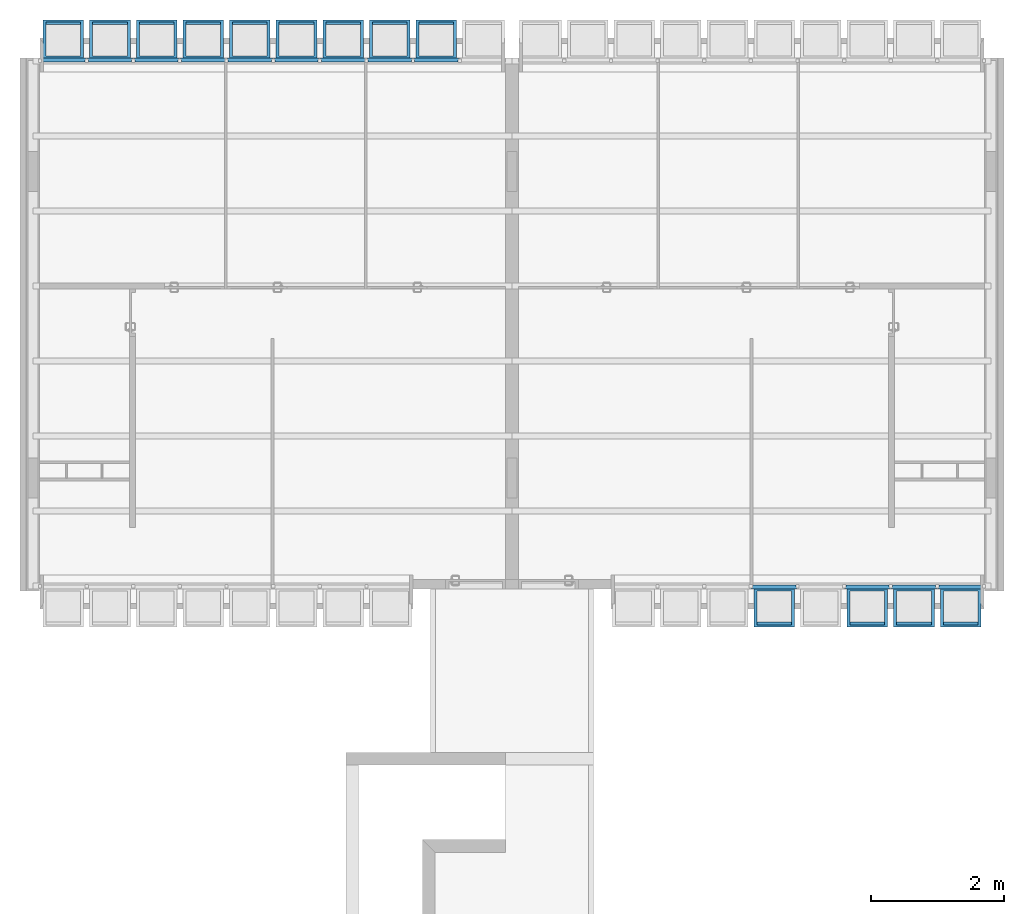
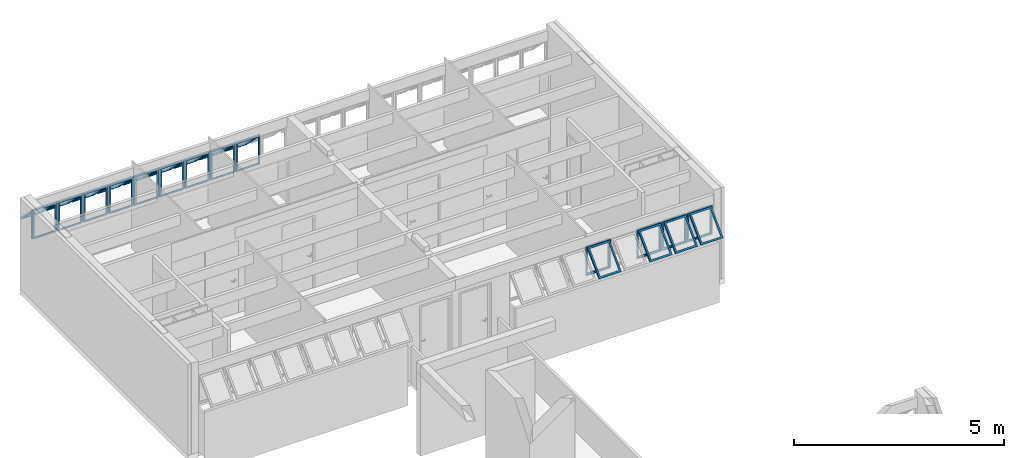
# One storey, part 33 of 37: 13 building element parts, 15 elements without a shape of their own.
"""IFC2X3 building model written with IfcOpenShell, lengths in millimetres."""

from ifc_helpers import new_model, entity, si_unit, converted_unit, derived_unit, money_unit, direction, frame, origin_with_axes, place, context, subcontext, project, spatial, faceted_brep, source, transform, mapped, material, type_object, element, aggregate, save


model = new_model("IFC2X3")

# Units and contexts
model_context = context("Model", 3, precision=0.01, world=origin_with_axes(), true_north=direction((0.0, 1.0)))
body_context = subcontext(model_context, "Body", "Model", "MODEL_VIEW")
ifc_project = project(units=[si_unit("LENGTHUNIT", "METRE", prefix="MILLI"), si_unit("AREAUNIT", "SQUARE_METRE"), si_unit("VOLUMEUNIT", "CUBIC_METRE"), converted_unit("PLANEANGLEUNIT", "DEGREE", entity("IfcPlaneAngleMeasure", 0.0174532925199), si_unit("PLANEANGLEUNIT", "RADIAN"), dimensions=[0, 0, 0, 0, 0, 0, 0]), money_unit("USD"), converted_unit("TIMEUNIT", "Year", entity("IfcTimeMeasure", 31556926.0), si_unit("TIMEUNIT", "SECOND"), dimensions=[0, 0, 1, 0, 0, 0, 0]), si_unit("MASSUNIT", "GRAM", prefix="KILO"), si_unit("THERMODYNAMICTEMPERATUREUNIT", "DEGREE_CELSIUS"), si_unit("LUMINOUSINTENSITYUNIT", "LUMEN"), si_unit("ENERGYUNIT", "JOULE", prefix="MEGA"), derived_unit("THERMALCONDUCTANCEUNIT", [(si_unit("POWERUNIT", "WATT"), 1), (si_unit("LENGTHUNIT", "METRE"), -1), (si_unit("THERMODYNAMICTEMPERATUREUNIT", "KELVIN"), -1)]), derived_unit("SPECIFICHEATCAPACITYUNIT", [(si_unit("ENERGYUNIT", "JOULE"), 1), (si_unit("MASSUNIT", "GRAM", prefix="KILO"), -1), (si_unit("THERMODYNAMICTEMPERATUREUNIT", "KELVIN"), -1)]), derived_unit("MASSDENSITYUNIT", [(si_unit("MASSUNIT", "GRAM", prefix="KILO"), 1), (si_unit("VOLUMEUNIT", "CUBIC_METRE"), -1)])], contexts=[model_context])

# Site, building, storey
site_placement = place(None, origin_with_axes())
site = spatial("IfcSite", under=ifc_project, at=site_placement, Name="Local", CompositionType="ELEMENT")
building_placement = place(site_placement, origin_with_axes())
building = spatial("IfcBuilding", under=site, at=building_placement, Name="Construção", CompositionType="ELEMENT")
storey_placement = place(building_placement, frame((0.0, 0.0, 5300.0), z_axis=(0.0, 0.0, 1.0), x_axis=(1.0, 0.0, 0.0)))
storey = spatial("IfcBuildingStorey", under=building, at=storey_placement, Name="Terceiro Pavimento", CompositionType="ELEMENT", Elevation=5300.0)

# Window, plates, building element parts
window_style = type_object("IfcWindowStyle", Name="Tipo de Parede Cortina", ConstructionType="NOTDEFINED", OperationType="NOTDEFINED", ParameterTakesPrecedence=False, Sizeable=False)
window_1_placement = place(storey_placement, frame((6250.0, 25844.9790225, 1355.02054151), z_axis=(0.0, 0.0, 1.0), x_axis=(1.0, 0.0, 0.0)))
window_1 = element("IfcWindow", 1, at=window_1_placement, inside=storey, type_object=window_style, Name="APTO11-JANELA-001")
plate_type = type_object("IfcPlateType", Name="Painel Principal 690 x 845 x 20", PredefinedType="CURTAIN_PANEL")
plate_1_placement = place(window_1_placement, frame((0.0, 0.0, 422.499945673), z_axis=(0.0, 0.0, 1.0), x_axis=(-1.0, 0.0, 0.0)))
plate_1 = element("IfcPlate", 2, at=plate_1_placement, type_object=plate_type, Name="APTO11-Painel-Prin-030")
ifc_material = material(Name="Alumínio")
shared_shape_1 = source(origin_with_axes(), body_context, "Body", "Brep", [
    faceted_brep([(-25.0000036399, 0.0, -40.0), (-25.0000036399, 0.0, -35.0), (-674.999997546, 0.0, -35.0), (-674.999997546, 0.0, -40.0), (-70.0000036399, 45.0, -40.0), (-70.0000036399, 45.0, -35.0), (-629.999997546, 45.0, -35.0), (-629.999997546, 45.0, -40.0)], [[[0, 1, 2, 3]], [[4, 5, 1, 0]], [[1, 5, 6, 2]], [[3, 2, 6, 7]], [[0, 3, 7, 4]], [[7, 6, 5, 4]]]),
    faceted_brep([(-674.999997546, 0.0, -40.0), (-674.999997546, 0.0, -35.0), (-674.999997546, 844.999891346, -35.0), (-674.999997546, 844.999891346, -40.0), (-629.999997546, 45.0, -40.0), (-629.999997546, 45.0, -35.0), (-629.999997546, 799.999891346, -35.0), (-629.999997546, 799.999891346, -40.0)], [[[0, 1, 2, 3]], [[4, 5, 1, 0]], [[1, 5, 6, 2]], [[3, 2, 6, 7]], [[0, 3, 7, 4]], [[7, 6, 5, 4]]]),
    faceted_brep([(-25.0000036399, 844.999891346, -40.0), (-25.0000036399, 844.999891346, -35.0), (-70.0000036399, 799.999891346, -35.0), (-70.0000036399, 799.999891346, -40.0), (-674.999997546, 844.999891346, -40.0), (-674.999997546, 844.999891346, -35.0), (-629.999997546, 799.999891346, -35.0), (-629.999997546, 799.999891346, -40.0)], [[[0, 1, 2, 3]], [[4, 5, 1, 0]], [[1, 5, 6, 2]], [[3, 2, 6, 7]], [[0, 3, 7, 4]], [[7, 6, 5, 4]]]),
    faceted_brep([(-25.0000036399, 0.0, -40.0), (-25.0000036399, 0.0, -35.0), (-70.0000036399, 45.0, -35.0), (-70.0000036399, 45.0, -40.0), (-25.0000036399, 844.999891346, -40.0), (-25.0000036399, 844.999891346, -35.0), (-70.0000036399, 799.999891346, -35.0), (-70.0000036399, 799.999891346, -40.0)], [[[0, 1, 2, 3]], [[4, 5, 1, 0]], [[1, 5, 6, 2]], [[3, 2, 6, 7]], [[0, 3, 7, 4]], [[7, 6, 5, 4]]]),
    faceted_brep([(-25.0000036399, 0.0, -35.0), (-25.0000036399, 0.0, 15.0), (-674.999997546, 0.0, 15.0), (-674.999997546, 0.0, -35.0), (-45.0000036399, 20.0, -35.0), (-45.0000036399, 20.0, 15.0), (-654.999997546, 20.0, 15.0), (-654.999997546, 20.0, -35.0)], [[[0, 1, 2, 3]], [[4, 5, 1, 0]], [[1, 5, 6, 2]], [[3, 2, 6, 7]], [[0, 3, 7, 4]], [[7, 6, 5, 4]]]),
    faceted_brep([(-674.999997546, 0.0, -35.0), (-674.999997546, 0.0, 15.0), (-674.999997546, 844.999891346, 15.0), (-674.999997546, 844.999891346, -35.0), (-654.999997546, 20.0, -35.0), (-654.999997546, 20.0, 15.0), (-654.999997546, 824.999891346, 15.0), (-654.999997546, 824.999891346, -35.0)], [[[0, 1, 2, 3]], [[4, 5, 1, 0]], [[1, 5, 6, 2]], [[3, 2, 6, 7]], [[0, 3, 7, 4]], [[7, 6, 5, 4]]]),
    faceted_brep([(-25.0000036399, 844.999891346, -35.0), (-25.0000036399, 844.999891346, 15.0), (-45.0000036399, 824.999891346, 15.0), (-45.0000036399, 824.999891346, -35.0), (-674.999997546, 844.999891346, -35.0), (-674.999997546, 844.999891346, 15.0), (-654.999997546, 824.999891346, 15.0), (-654.999997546, 824.999891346, -35.0)], [[[0, 1, 2, 3]], [[4, 5, 1, 0]], [[1, 5, 6, 2]], [[3, 2, 6, 7]], [[0, 3, 7, 4]], [[7, 6, 5, 4]]]),
    faceted_brep([(-25.0000036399, 0.0, -35.0), (-25.0000036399, 0.0, 15.0), (-45.0000036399, 20.0, 15.0), (-45.0000036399, 20.0, -35.0), (-25.0000036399, 844.999891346, -35.0), (-25.0000036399, 844.999891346, 15.0), (-45.0000036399, 824.999891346, 15.0), (-45.0000036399, 824.999891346, -35.0)], [[[0, 1, 2, 3]], [[4, 5, 1, 0]], [[1, 5, 6, 2]], [[3, 2, 6, 7]], [[0, 3, 7, 4]], [[7, 6, 5, 4]]]),
    faceted_brep([(-694.999995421, 0.0, -10.0), (-694.999995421, 0.0, 10.0), (-694.999995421, 844.999891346, 10.0), (-694.999995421, 844.999891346, -10.0), (-674.999997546, 0.0, -10.0), (-674.999997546, 0.0, 10.0), (-674.999997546, 844.999891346, 10.0), (-674.999997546, 844.999891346, -10.0)], [[[0, 1, 2, 3]], [[4, 5, 1, 0]], [[1, 5, 6, 2]], [[3, 2, 6, 7]], [[0, 3, 7, 4]], [[7, 6, 5, 4]]]),
    faceted_brep([(-5.00000576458, 844.999891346, -10.0), (-5.00000576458, 844.999891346, 10.0), (-5.00000576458, 0.0, 10.0), (-5.00000576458, 0.0, -10.0), (-25.0000036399, 844.999891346, -10.0), (-25.0000036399, 844.999891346, 10.0), (-25.0000036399, 0.0, 10.0), (-25.0000036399, 0.0, -10.0)], [[[0, 1, 2, 3]], [[4, 5, 1, 0]], [[1, 5, 6, 2]], [[3, 2, 6, 7]], [[0, 3, 7, 4]], [[7, 6, 5, 4]]]),
    faceted_brep([(-90.0000036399, 252.243475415, 517.045737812), (-90.0000036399, 291.13434838, 555.936610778), (-90.0000036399, 796.715620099, 50.3553390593), (-90.0000036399, 757.824747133, 11.4644660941), (-45.0000036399, 220.423670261, 548.865542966), (-45.0000036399, 259.314543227, 587.756415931), (-45.0000036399, 828.535425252, 18.5355339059), (-45.0000036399, 789.644552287, -20.3553390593)], [[[0, 1, 2, 3]], [[4, 5, 1, 0]], [[1, 5, 6, 2]], [[3, 2, 6, 7]], [[0, 3, 7, 4]], [[7, 6, 5, 4]]]),
    faceted_brep([(-654.999997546, 220.423670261, 548.865542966), (-654.999997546, 259.314543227, 587.756415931), (-654.999997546, 828.535425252, 18.5355339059), (-654.999997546, 789.644552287, -20.3553390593), (-609.999997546, 252.243475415, 517.045737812), (-609.999997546, 291.13434838, 555.936610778), (-609.999997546, 796.715620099, 50.3553390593), (-609.999997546, 757.824747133, 11.4644660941)], [[[0, 1, 2, 3]], [[4, 5, 1, 0]], [[1, 5, 6, 2]], [[3, 2, 6, 7]], [[0, 3, 7, 4]], [[7, 6, 5, 4]]]),
    faceted_brep([(-654.999997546, 220.423670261, 548.865542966), (-654.999997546, 259.314543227, 587.756415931), (-609.999997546, 291.13434838, 555.936610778), (-609.999997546, 252.243475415, 517.045737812), (-45.0000036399, 220.423670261, 548.865542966), (-45.0000036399, 259.314543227, 587.756415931), (-90.0000036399, 291.13434838, 555.936610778), (-90.0000036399, 252.243475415, 517.045737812)], [[[0, 1, 2, 3]], [[4, 5, 1, 0]], [[1, 5, 6, 2]], [[3, 2, 6, 7]], [[0, 3, 7, 4]], [[7, 6, 5, 4]]]),
    faceted_brep([(-45.0000036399, 789.644552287, -20.3553390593), (-45.0000036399, 828.535425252, 18.5355339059), (-90.0000036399, 796.715620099, 50.3553390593), (-90.0000036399, 757.824747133, 11.4644660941), (-654.999997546, 789.644552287, -20.3553390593), (-654.999997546, 828.535425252, 18.5355339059), (-609.999997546, 796.715620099, 50.3553390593), (-609.999997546, 757.824747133, 11.4644660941)], [[[0, 1, 2, 3]], [[4, 5, 1, 0]], [[1, 5, 6, 2]], [[3, 2, 6, 7]], [[0, 3, 7, 4]], [[7, 6, 5, 4]]]),
])
building_element_part_1_placement = place(plate_1_placement, origin_with_axes())
building_element_part_1 = element("IfcBuildingElementPart", 3, at=building_element_part_1_placement, material=ifc_material, Name="Alumínio", context=body_context, shape_type="MappedRepresentation", body=[
    mapped(shared_shape_1, transform((350.0, 0.0, -422.499945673), x_axis=(1.0, 0.0, 0.0), y_axis=(0.0, 0.0, 1.0), z_axis=(0.0, -1.0, 0.0))),
])
aggregate(plate_1, [building_element_part_1])
plate_2_placement = place(window_1_placement, frame((-700.0, 0.0, 422.499945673), z_axis=(0.0, 0.0, 1.0), x_axis=(-1.0, 0.0, 0.0)))
plate_2 = element("IfcPlate", 4, at=plate_2_placement, type_object=plate_type, Name="APTO11-Painel-Prin-020")
building_element_part_2_placement = place(plate_2_placement, origin_with_axes())
building_element_part_2 = element("IfcBuildingElementPart", 5, at=building_element_part_2_placement, material=ifc_material, Name="Alumínio", context=body_context, shape_type="MappedRepresentation", body=[
    mapped(shared_shape_1, transform((350.0, 0.0, -422.499945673), x_axis=(1.0, 0.0, 0.0), y_axis=(0.0, 0.0, 1.0), z_axis=(0.0, -1.0, 0.0))),
])
aggregate(plate_2, [building_element_part_2])
plate_3_placement = place(window_1_placement, frame((-1400.0, 0.0, 422.499945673), z_axis=(0.0, 0.0, 1.0), x_axis=(-1.0, 0.0, 0.0)))
plate_3 = element("IfcPlate", 6, at=plate_3_placement, type_object=plate_type, Name="APTO11-Painel-Prin-029")
building_element_part_3_placement = place(plate_3_placement, origin_with_axes())
building_element_part_3 = element("IfcBuildingElementPart", 7, at=building_element_part_3_placement, material=ifc_material, Name="Alumínio", context=body_context, shape_type="MappedRepresentation", body=[
    mapped(shared_shape_1, transform((350.0, 0.0, -422.499945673), x_axis=(1.0, 0.0, 0.0), y_axis=(0.0, 0.0, 1.0), z_axis=(0.0, -1.0, 0.0))),
])
aggregate(plate_3, [building_element_part_3])
plate_4_placement = place(window_1_placement, frame((-3500.0, 0.0, 422.499945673), z_axis=(0.0, 0.0, 1.0), x_axis=(-1.0, 0.0, 0.0)))
plate_4 = element("IfcPlate", 8, at=plate_4_placement, type_object=plate_type, Name="APTO11-Painel-Prin-013")
building_element_part_4_placement = place(plate_4_placement, origin_with_axes())
building_element_part_4 = element("IfcBuildingElementPart", 9, at=building_element_part_4_placement, material=ifc_material, Name="Alumínio", context=body_context, shape_type="MappedRepresentation", body=[
    mapped(shared_shape_1, transform((350.0, 0.0, -422.499945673), x_axis=(1.0, 0.0, 0.0), y_axis=(0.0, 0.0, 1.0), z_axis=(0.0, -1.0, 0.0))),
])
aggregate(plate_4, [building_element_part_4])
plate_5_placement = place(window_1_placement, frame((-5600.0, 0.0, 422.499945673), z_axis=(0.0, 0.0, 1.0), x_axis=(-1.0, 0.0, 0.0)))
plate_5 = element("IfcPlate", 10, at=plate_5_placement, type_object=plate_type, Name="APTO11-Painel-Prin-013")
shared_shape_2 = source(origin_with_axes(), body_context, "Body", "Brep", [
    faceted_brep([(-25.0000036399, 0.0, -40.0), (-25.0000036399, 0.0, -35.0), (-674.999997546, 0.0, -35.0), (-674.999997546, 0.0, -40.0), (-70.0000036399, 45.0, -40.0), (-70.0000036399, 45.0, -35.0), (-629.999997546, 45.0, -35.0), (-629.999997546, 45.0, -40.0)], [[[0, 1, 2, 3]], [[4, 5, 1, 0]], [[1, 5, 6, 2]], [[3, 2, 6, 7]], [[0, 3, 7, 4]], [[7, 6, 5, 4]]]),
    faceted_brep([(-674.999997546, 0.0, -40.0), (-674.999997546, 0.0, -35.0), (-674.999997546, 844.999891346, -35.0), (-674.999997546, 844.999891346, -40.0), (-629.999997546, 45.0, -40.0), (-629.999997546, 45.0, -35.0), (-629.999997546, 799.999891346, -35.0), (-629.999997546, 799.999891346, -40.0)], [[[0, 1, 2, 3]], [[4, 5, 1, 0]], [[1, 5, 6, 2]], [[3, 2, 6, 7]], [[0, 3, 7, 4]], [[7, 6, 5, 4]]]),
    faceted_brep([(-25.0000036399, 844.999891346, -40.0), (-25.0000036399, 844.999891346, -35.0), (-70.0000036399, 799.999891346, -35.0), (-70.0000036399, 799.999891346, -40.0), (-674.999997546, 844.999891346, -40.0), (-674.999997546, 844.999891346, -35.0), (-629.999997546, 799.999891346, -35.0), (-629.999997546, 799.999891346, -40.0)], [[[0, 1, 2, 3]], [[4, 5, 1, 0]], [[1, 5, 6, 2]], [[3, 2, 6, 7]], [[0, 3, 7, 4]], [[7, 6, 5, 4]]]),
    faceted_brep([(-25.0000036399, 0.0, -40.0), (-25.0000036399, 0.0, -35.0), (-70.0000036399, 45.0, -35.0), (-70.0000036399, 45.0, -40.0), (-25.0000036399, 844.999891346, -40.0), (-25.0000036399, 844.999891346, -35.0), (-70.0000036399, 799.999891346, -35.0), (-70.0000036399, 799.999891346, -40.0)], [[[0, 1, 2, 3]], [[4, 5, 1, 0]], [[1, 5, 6, 2]], [[3, 2, 6, 7]], [[0, 3, 7, 4]], [[7, 6, 5, 4]]]),
    faceted_brep([(-25.0000036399, 0.0, -35.0), (-25.0000036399, 0.0, 15.0), (-674.999997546, 0.0, 15.0), (-674.999997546, 0.0, -35.0), (-45.0000036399, 20.0, -35.0), (-45.0000036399, 20.0, 15.0), (-654.999997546, 20.0, 15.0), (-654.999997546, 20.0, -35.0)], [[[0, 1, 2, 3]], [[4, 5, 1, 0]], [[1, 5, 6, 2]], [[3, 2, 6, 7]], [[0, 3, 7, 4]], [[7, 6, 5, 4]]]),
    faceted_brep([(-674.999997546, 0.0, -35.0), (-674.999997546, 0.0, 15.0), (-674.999997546, 844.999891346, 15.0), (-674.999997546, 844.999891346, -35.0), (-654.999997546, 20.0, -35.0), (-654.999997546, 20.0, 15.0), (-654.999997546, 824.999891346, 15.0), (-654.999997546, 824.999891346, -35.0)], [[[0, 1, 2, 3]], [[4, 5, 1, 0]], [[1, 5, 6, 2]], [[3, 2, 6, 7]], [[0, 3, 7, 4]], [[7, 6, 5, 4]]]),
    faceted_brep([(-25.0000036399, 844.999891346, -35.0), (-25.0000036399, 844.999891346, 15.0), (-45.0000036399, 824.999891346, 15.0), (-45.0000036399, 824.999891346, -35.0), (-674.999997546, 844.999891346, -35.0), (-674.999997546, 844.999891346, 15.0), (-654.999997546, 824.999891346, 15.0), (-654.999997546, 824.999891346, -35.0)], [[[0, 1, 2, 3]], [[4, 5, 1, 0]], [[1, 5, 6, 2]], [[3, 2, 6, 7]], [[0, 3, 7, 4]], [[7, 6, 5, 4]]]),
    faceted_brep([(-25.0000036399, 0.0, -35.0), (-25.0000036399, 0.0, 15.0), (-45.0000036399, 20.0, 15.0), (-45.0000036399, 20.0, -35.0), (-25.0000036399, 844.999891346, -35.0), (-25.0000036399, 844.999891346, 15.0), (-45.0000036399, 824.999891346, 15.0), (-45.0000036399, 824.999891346, -35.0)], [[[0, 1, 2, 3]], [[4, 5, 1, 0]], [[1, 5, 6, 2]], [[3, 2, 6, 7]], [[0, 3, 7, 4]], [[7, 6, 5, 4]]]),
    faceted_brep([(-694.999995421, 0.0, -10.0), (-694.999995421, 0.0, 10.0), (-694.999995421, 844.999891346, 10.0), (-694.999995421, 844.999891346, -10.0), (-674.999997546, 0.0, -10.0), (-674.999997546, 0.0, 10.0), (-674.999997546, 844.999891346, 10.0), (-674.999997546, 844.999891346, -10.0)], [[[0, 1, 2, 3]], [[4, 5, 1, 0]], [[1, 5, 6, 2]], [[3, 2, 6, 7]], [[0, 3, 7, 4]], [[7, 6, 5, 4]]]),
    faceted_brep([(-5.00000576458, 844.999891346, -10.0), (-5.00000576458, 844.999891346, 10.0), (-5.00000576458, 0.0, 10.0), (-5.00000576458, 0.0, -10.0), (-25.0000036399, 844.999891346, -10.0), (-25.0000036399, 844.999891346, 10.0), (-25.0000036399, 0.0, 10.0), (-25.0000036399, 0.0, -10.0)], [[[0, 1, 2, 3]], [[4, 5, 1, 0]], [[1, 5, 6, 2]], [[3, 2, 6, 7]], [[0, 3, 7, 4]], [[7, 6, 5, 4]]]),
    faceted_brep([(-90.0000036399, 252.243475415, 517.045737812), (-90.0000036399, 291.13434838, 555.936610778), (-90.0000036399, 796.715620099, 50.3553390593), (-90.0000036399, 757.824747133, 11.4644660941), (-45.0000036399, 220.423670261, 548.865542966), (-45.0000036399, 259.314543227, 587.756415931), (-45.0000036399, 828.535425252, 18.5355339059), (-45.0000036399, 789.644552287, -20.3553390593)], [[[0, 1, 2, 3]], [[4, 5, 1, 0]], [[1, 5, 6, 2]], [[3, 2, 6, 7]], [[0, 3, 7, 4]], [[7, 6, 5, 4]]]),
    faceted_brep([(-654.999997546, 220.423670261, 548.865542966), (-654.999997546, 259.314543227, 587.756415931), (-654.999997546, 828.535425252, 18.5355339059), (-654.999997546, 789.644552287, -20.3553390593), (-609.999997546, 252.243475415, 517.045737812), (-609.999997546, 291.13434838, 555.936610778), (-609.999997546, 796.715620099, 50.3553390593), (-609.999997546, 757.824747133, 11.4644660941)], [[[0, 1, 2, 3]], [[4, 5, 1, 0]], [[1, 5, 6, 2]], [[3, 2, 6, 7]], [[0, 3, 7, 4]], [[7, 6, 5, 4]]]),
    faceted_brep([(-654.999997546, 220.423670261, 548.865542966), (-654.999997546, 259.314543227, 587.756415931), (-609.999997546, 291.13434838, 555.936610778), (-609.999997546, 252.243475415, 517.045737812), (-45.0000036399, 220.423670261, 548.865542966), (-45.0000036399, 259.314543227, 587.756415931), (-90.0000036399, 291.13434838, 555.936610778), (-90.0000036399, 252.243475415, 517.045737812)], [[[0, 1, 2, 3]], [[4, 5, 1, 0]], [[1, 5, 6, 2]], [[3, 2, 6, 7]], [[0, 3, 7, 4]], [[7, 6, 5, 4]]]),
    faceted_brep([(-45.0000036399, 789.644552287, -20.3553390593), (-45.0000036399, 828.535425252, 18.5355339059), (-90.0000036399, 796.715620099, 50.3553390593), (-90.0000036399, 757.824747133, 11.4644660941), (-654.999997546, 789.644552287, -20.3553390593), (-654.999997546, 828.535425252, 18.5355339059), (-609.999997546, 796.715620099, 50.3553390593), (-609.999997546, 757.824747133, 11.4644660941)], [[[0, 1, 2, 3]], [[4, 5, 1, 0]], [[1, 5, 6, 2]], [[3, 2, 6, 7]], [[0, 3, 7, 4]], [[7, 6, 5, 4]]]),
])
building_element_part_5_placement = place(plate_5_placement, origin_with_axes())
building_element_part_5 = element("IfcBuildingElementPart", 11, at=building_element_part_5_placement, material=ifc_material, Name="Alumínio", context=body_context, shape_type="MappedRepresentation", body=[
    mapped(shared_shape_2, transform((350.0, 0.0, -422.499945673), x_axis=(1.0, 0.0, 0.0), y_axis=(0.0, 0.0, 1.0), z_axis=(0.0, -1.0, 0.0))),
])
aggregate(plate_5, [building_element_part_5])
plate_6_placement = place(window_1_placement, frame((-4900.0, 0.0, 422.499945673), z_axis=(0.0, 0.0, 1.0), x_axis=(-1.0, 0.0, 0.0)))
plate_6 = element("IfcPlate", 12, at=plate_6_placement, type_object=plate_type, Name="APTO11-Painel-Prin-013")
building_element_part_6_placement = place(plate_6_placement, origin_with_axes())
building_element_part_6 = element("IfcBuildingElementPart", 13, at=building_element_part_6_placement, material=ifc_material, Name="Alumínio", context=body_context, shape_type="MappedRepresentation", body=[
    mapped(shared_shape_2, transform((350.0, 0.0, -422.499945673), x_axis=(1.0, 0.0, 0.0), y_axis=(0.0, 0.0, 1.0), z_axis=(0.0, -1.0, 0.0))),
])
aggregate(plate_6, [building_element_part_6])
plate_7_placement = place(window_1_placement, frame((-2100.0, 0.0, 422.499945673), z_axis=(0.0, 0.0, 1.0), x_axis=(-1.0, 0.0, 0.0)))
plate_7 = element("IfcPlate", 14, at=plate_7_placement, type_object=plate_type, Name="APTO11-Painel-Prin-025")
building_element_part_7_placement = place(plate_7_placement, origin_with_axes())
building_element_part_7 = element("IfcBuildingElementPart", 15, at=building_element_part_7_placement, material=ifc_material, Name="Alumínio", context=body_context, shape_type="MappedRepresentation", body=[
    mapped(shared_shape_2, transform((350.0, 0.0, -422.499945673), x_axis=(1.0, 0.0, 0.0), y_axis=(0.0, 0.0, 1.0), z_axis=(0.0, -1.0, 0.0))),
])
aggregate(plate_7, [building_element_part_7])

window_2_placement = place(storey_placement, frame((12020.0, 17910.0, 1355.00007107), z_axis=(0.0, 0.0, 1.0), x_axis=(1.0, 0.0, 0.0)))
window_2 = element("IfcWindow", 16, at=window_2_placement, inside=storey, type_object=window_style, Name="APTO12-JANELA-000")
plate_8_placement = place(window_2_placement, frame((2100.0, 0.0, 422.499998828), z_axis=(0.0, 0.0, 1.0), x_axis=(1.0, 0.0, 0.0)))
plate_8 = element("IfcPlate", 17, at=plate_8_placement, type_object=plate_type, Name="APTO12-Painel-Prin-013")
building_element_part_8_placement = place(plate_8_placement, origin_with_axes())
building_element_part_8 = element("IfcBuildingElementPart", 18, at=building_element_part_8_placement, material=ifc_material, Name="Alumínio", context=body_context, shape_type="MappedRepresentation", body=[
    mapped(shared_shape_2, transform((350.0, 0.0, -422.499998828), x_axis=(1.0, 0.0, 0.0), y_axis=(0.0, 0.0, 1.0), z_axis=(0.0, -1.0, 0.0))),
])
aggregate(plate_8, [building_element_part_8])
plate_9_placement = place(window_2_placement, frame((1400.0, 0.0, 422.499964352), z_axis=(0.0, 0.0, 1.0), x_axis=(1.0, 0.0, 0.0)))
plate_9 = element("IfcPlate", 19, at=plate_9_placement, type_object=plate_type, Name="APTO12-Painel-Prin-013")
building_element_part_9_placement = place(plate_9_placement, origin_with_axes())
building_element_part_9 = element("IfcBuildingElementPart", 20, at=building_element_part_9_placement, material=ifc_material, Name="Alumínio", context=body_context, shape_type="MappedRepresentation", body=[
    mapped(shared_shape_2, transform((350.0, 0.0, -422.499964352), x_axis=(1.0, 0.0, 0.0), y_axis=(0.0, 0.0, 1.0), z_axis=(0.0, -1.0, 0.0))),
])
aggregate(plate_9, [building_element_part_9])

# Plate, building element part
plate_10_placement = place(window_1_placement, frame((-2800.0, 0.0, 422.499945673), z_axis=(0.0, 0.0, 1.0), x_axis=(-1.0, 0.0, 0.0)))
plate_10 = element("IfcPlate", 21, at=plate_10_placement, type_object=plate_type, Name="APTO11-Painel-Prin-013")
shared_shape_3 = source(origin_with_axes(), body_context, "Body", "Brep", [
    faceted_brep([(-25.0000036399, 0.0, -40.0), (-25.0000036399, 0.0, -35.0), (-674.999997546, 0.0, -35.0), (-674.999997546, 0.0, -40.0), (-70.0000036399, 45.0, -40.0), (-70.0000036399, 45.0, -35.0), (-629.999997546, 45.0, -35.0), (-629.999997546, 45.0, -40.0)], [[[0, 1, 2, 3]], [[4, 5, 1, 0]], [[1, 5, 6, 2]], [[3, 2, 6, 7]], [[0, 3, 7, 4]], [[7, 6, 5, 4]]]),
    faceted_brep([(-674.999997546, 0.0, -40.0), (-674.999997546, 0.0, -35.0), (-674.999997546, 844.999891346, -35.0), (-674.999997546, 844.999891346, -40.0), (-629.999997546, 45.0, -40.0), (-629.999997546, 45.0, -35.0), (-629.999997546, 799.999891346, -35.0), (-629.999997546, 799.999891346, -40.0)], [[[0, 1, 2, 3]], [[4, 5, 1, 0]], [[1, 5, 6, 2]], [[3, 2, 6, 7]], [[0, 3, 7, 4]], [[7, 6, 5, 4]]]),
    faceted_brep([(-25.0000036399, 844.999891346, -40.0), (-25.0000036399, 844.999891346, -35.0), (-70.0000036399, 799.999891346, -35.0), (-70.0000036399, 799.999891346, -40.0), (-674.999997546, 844.999891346, -40.0), (-674.999997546, 844.999891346, -35.0), (-629.999997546, 799.999891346, -35.0), (-629.999997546, 799.999891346, -40.0)], [[[0, 1, 2, 3]], [[4, 5, 1, 0]], [[1, 5, 6, 2]], [[3, 2, 6, 7]], [[0, 3, 7, 4]], [[7, 6, 5, 4]]]),
    faceted_brep([(-25.0000036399, 0.0, -40.0), (-25.0000036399, 0.0, -35.0), (-70.0000036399, 45.0, -35.0), (-70.0000036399, 45.0, -40.0), (-25.0000036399, 844.999891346, -40.0), (-25.0000036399, 844.999891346, -35.0), (-70.0000036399, 799.999891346, -35.0), (-70.0000036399, 799.999891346, -40.0)], [[[0, 1, 2, 3]], [[4, 5, 1, 0]], [[1, 5, 6, 2]], [[3, 2, 6, 7]], [[0, 3, 7, 4]], [[7, 6, 5, 4]]]),
    faceted_brep([(-25.0000036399, 0.0, -35.0), (-25.0000036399, 0.0, 15.0), (-674.999997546, 0.0, 15.0), (-674.999997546, 0.0, -35.0), (-45.0000036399, 20.0, -35.0), (-45.0000036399, 20.0, 15.0), (-654.999997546, 20.0, 15.0), (-654.999997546, 20.0, -35.0)], [[[0, 1, 2, 3]], [[4, 5, 1, 0]], [[1, 5, 6, 2]], [[3, 2, 6, 7]], [[0, 3, 7, 4]], [[7, 6, 5, 4]]]),
    faceted_brep([(-674.999997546, 0.0, -35.0), (-674.999997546, 0.0, 15.0), (-674.999997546, 844.999891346, 15.0), (-674.999997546, 844.999891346, -35.0), (-654.999997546, 20.0, -35.0), (-654.999997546, 20.0, 15.0), (-654.999997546, 824.999891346, 15.0), (-654.999997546, 824.999891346, -35.0)], [[[0, 1, 2, 3]], [[4, 5, 1, 0]], [[1, 5, 6, 2]], [[3, 2, 6, 7]], [[0, 3, 7, 4]], [[7, 6, 5, 4]]]),
    faceted_brep([(-25.0000036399, 844.999891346, -35.0), (-25.0000036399, 844.999891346, 15.0), (-45.0000036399, 824.999891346, 15.0), (-45.0000036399, 824.999891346, -35.0), (-674.999997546, 844.999891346, -35.0), (-674.999997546, 844.999891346, 15.0), (-654.999997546, 824.999891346, 15.0), (-654.999997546, 824.999891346, -35.0)], [[[0, 1, 2, 3]], [[4, 5, 1, 0]], [[1, 5, 6, 2]], [[3, 2, 6, 7]], [[0, 3, 7, 4]], [[7, 6, 5, 4]]]),
    faceted_brep([(-25.0000036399, 0.0, -35.0), (-25.0000036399, 0.0, 15.0), (-45.0000036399, 20.0, 15.0), (-45.0000036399, 20.0, -35.0), (-25.0000036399, 844.999891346, -35.0), (-25.0000036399, 844.999891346, 15.0), (-45.0000036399, 824.999891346, 15.0), (-45.0000036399, 824.999891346, -35.0)], [[[0, 1, 2, 3]], [[4, 5, 1, 0]], [[1, 5, 6, 2]], [[3, 2, 6, 7]], [[0, 3, 7, 4]], [[7, 6, 5, 4]]]),
    faceted_brep([(-694.999995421, 0.0, -10.0), (-694.999995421, 0.0, 10.0), (-694.999995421, 844.999891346, 10.0), (-694.999995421, 844.999891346, -10.0), (-674.999997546, 0.0, -10.0), (-674.999997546, 0.0, 10.0), (-674.999997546, 844.999891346, 10.0), (-674.999997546, 844.999891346, -10.0)], [[[0, 1, 2, 3]], [[4, 5, 1, 0]], [[1, 5, 6, 2]], [[3, 2, 6, 7]], [[0, 3, 7, 4]], [[7, 6, 5, 4]]]),
    faceted_brep([(-5.00000576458, 844.999891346, -10.0), (-5.00000576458, 844.999891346, 10.0), (-5.00000576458, 0.0, 10.0), (-5.00000576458, 0.0, -10.0), (-25.0000036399, 844.999891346, -10.0), (-25.0000036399, 844.999891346, 10.0), (-25.0000036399, 0.0, 10.0), (-25.0000036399, 0.0, -10.0)], [[[0, 1, 2, 3]], [[4, 5, 1, 0]], [[1, 5, 6, 2]], [[3, 2, 6, 7]], [[0, 3, 7, 4]], [[7, 6, 5, 4]]]),
    faceted_brep([(-90.0000036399, 252.243475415, 517.045737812), (-90.0000036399, 291.13434838, 555.936610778), (-90.0000036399, 796.715620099, 50.3553390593), (-90.0000036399, 757.824747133, 11.4644660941), (-45.0000036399, 220.423670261, 548.865542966), (-45.0000036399, 259.314543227, 587.756415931), (-45.0000036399, 828.535425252, 18.5355339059), (-45.0000036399, 789.644552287, -20.3553390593)], [[[0, 1, 2, 3]], [[4, 5, 1, 0]], [[1, 5, 6, 2]], [[3, 2, 6, 7]], [[0, 3, 7, 4]], [[7, 6, 5, 4]]]),
    faceted_brep([(-654.999997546, 220.423670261, 548.865542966), (-654.999997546, 259.314543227, 587.756415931), (-654.999997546, 828.535425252, 18.5355339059), (-654.999997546, 789.644552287, -20.3553390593), (-609.999997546, 252.243475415, 517.045737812), (-609.999997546, 291.13434838, 555.936610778), (-609.999997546, 796.715620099, 50.3553390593), (-609.999997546, 757.824747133, 11.4644660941)], [[[0, 1, 2, 3]], [[4, 5, 1, 0]], [[1, 5, 6, 2]], [[3, 2, 6, 7]], [[0, 3, 7, 4]], [[7, 6, 5, 4]]]),
    faceted_brep([(-654.999997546, 220.423670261, 548.865542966), (-654.999997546, 259.314543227, 587.756415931), (-609.999997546, 291.13434838, 555.936610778), (-609.999997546, 252.243475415, 517.045737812), (-45.0000036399, 220.423670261, 548.865542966), (-45.0000036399, 259.314543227, 587.756415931), (-90.0000036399, 291.13434838, 555.936610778), (-90.0000036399, 252.243475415, 517.045737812)], [[[0, 1, 2, 3]], [[4, 5, 1, 0]], [[1, 5, 6, 2]], [[3, 2, 6, 7]], [[0, 3, 7, 4]], [[7, 6, 5, 4]]]),
    faceted_brep([(-45.0000036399, 789.644552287, -20.3553390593), (-45.0000036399, 828.535425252, 18.5355339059), (-90.0000036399, 796.715620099, 50.3553390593), (-90.0000036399, 757.824747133, 11.4644660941), (-654.999997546, 789.644552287, -20.3553390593), (-654.999997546, 828.535425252, 18.5355339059), (-609.999997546, 796.715620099, 50.3553390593), (-609.999997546, 757.824747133, 11.4644660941)], [[[0, 1, 2, 3]], [[4, 5, 1, 0]], [[1, 5, 6, 2]], [[3, 2, 6, 7]], [[0, 3, 7, 4]], [[7, 6, 5, 4]]]),
])
building_element_part_10_placement = place(plate_10_placement, origin_with_axes())
building_element_part_10 = element("IfcBuildingElementPart", 22, at=building_element_part_10_placement, material=ifc_material, Name="Alumínio", context=body_context, shape_type="MappedRepresentation", body=[
    mapped(shared_shape_3, transform((350.0, 0.0, -422.499945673), x_axis=(1.0, 0.0, 0.0), y_axis=(0.0, 0.0, 1.0), z_axis=(0.0, -1.0, 0.0))),
])
aggregate(plate_10, [building_element_part_10])

# Plate
plate_11_placement = place(window_1_placement, frame((-4200.0, 0.0, 422.499945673), z_axis=(0.0, 0.0, 1.0), x_axis=(-1.0, 0.0, 0.0)))
plate_11 = element("IfcPlate", 23, at=plate_11_placement, type_object=plate_type, Name="APTO11-Painel-Prin-013")

aggregate(window_1, [plate_1, plate_5, plate_6, plate_10, plate_7, plate_2, plate_11, plate_3, plate_4])

# Building element part
building_element_part_11_placement = place(plate_11_placement, origin_with_axes())
building_element_part_11 = element("IfcBuildingElementPart", 24, at=building_element_part_11_placement, material=ifc_material, Name="Alumínio", context=body_context, shape_type="MappedRepresentation", body=[
    mapped(shared_shape_3, transform((350.0, 0.0, -422.499945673), x_axis=(1.0, 0.0, 0.0), y_axis=(0.0, 0.0, 1.0), z_axis=(0.0, -1.0, 0.0))),
])

aggregate(plate_11, [building_element_part_11])

# Plate, building element part
plate_12_placement = place(window_2_placement, frame((-700.0, 0.0, 422.499964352), z_axis=(0.0, 0.0, 1.0), x_axis=(1.0, 0.0, 0.0)))
plate_12 = element("IfcPlate", 25, at=plate_12_placement, type_object=plate_type, Name="APTO12-Painel-Prin-013")
building_element_part_12_placement = place(plate_12_placement, origin_with_axes())
building_element_part_12 = element("IfcBuildingElementPart", 26, at=building_element_part_12_placement, material=ifc_material, Name="Alumínio", context=body_context, shape_type="MappedRepresentation", body=[
    mapped(shared_shape_3, transform((350.0, 0.0, -422.499964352), x_axis=(1.0, 0.0, 0.0), y_axis=(0.0, 0.0, 1.0), z_axis=(0.0, -1.0, 0.0))),
])
aggregate(plate_12, [building_element_part_12])

# Plate
plate_13_placement = place(window_2_placement, frame((700.0, 0.0, 422.499964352), z_axis=(0.0, 0.0, 1.0), x_axis=(1.0, 0.0, 0.0)))
plate_13 = element("IfcPlate", 27, at=plate_13_placement, type_object=plate_type, Name="APTO12-Painel-Prin-013")

aggregate(window_2, [plate_8, plate_9, plate_12, plate_13])

# Building element part
building_element_part_13_placement = place(plate_13_placement, origin_with_axes())
building_element_part_13 = element("IfcBuildingElementPart", 28, at=building_element_part_13_placement, material=ifc_material, Name="Alumínio", context=body_context, shape_type="MappedRepresentation", body=[
    mapped(shared_shape_3, transform((350.0, 0.0, -422.499964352), x_axis=(1.0, 0.0, 0.0), y_axis=(0.0, 0.0, 1.0), z_axis=(0.0, -1.0, 0.0))),
])

aggregate(plate_13, [building_element_part_13])

save(model, "model.ifc")
